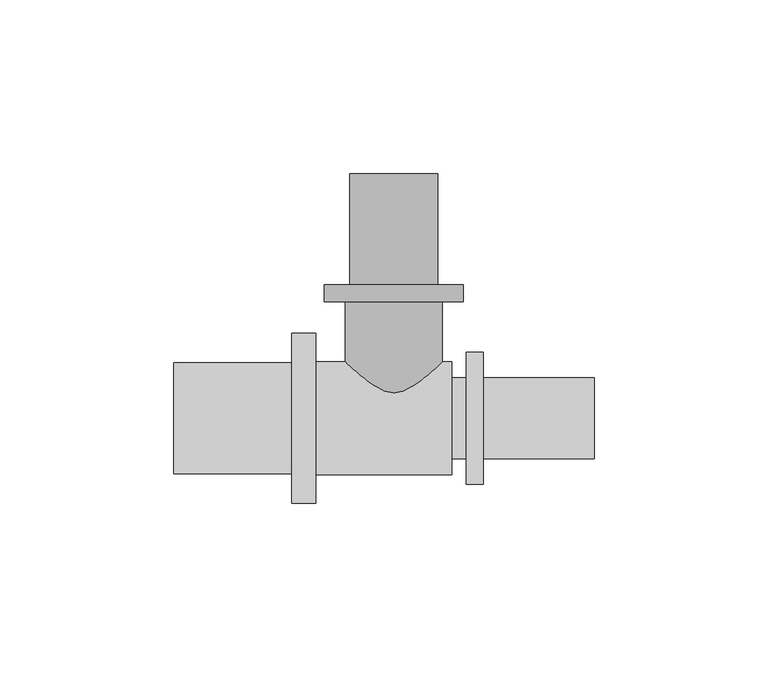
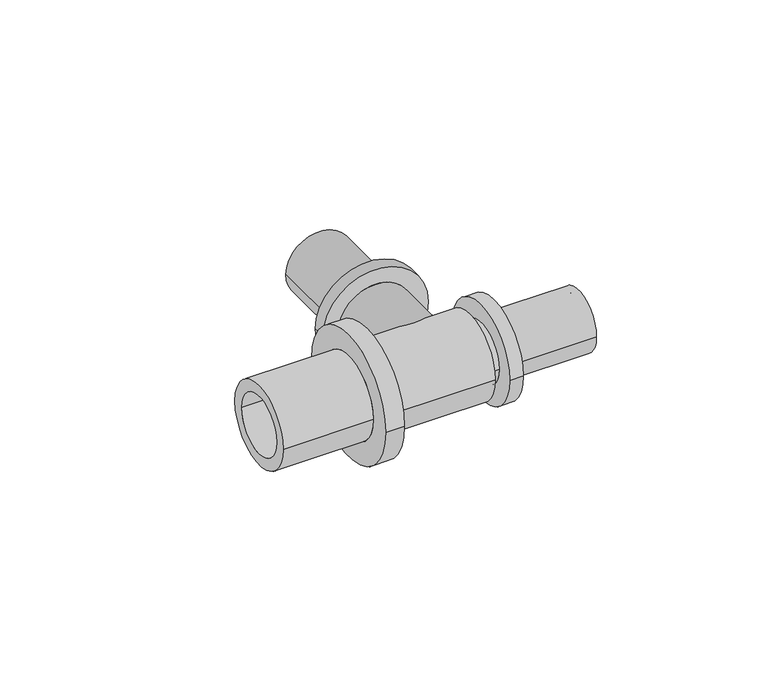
"""IFC4 building model written with IfcOpenShell, lengths in millimetres: pipe fitting geometry, RAUTITAN_T-piece_LX : RTI LX T DN."""

from ifc_helpers import new_model, si_unit, frame, origin, place, context, project, spatial, polyline, circle_curve, source, transform, mapped, element, save
from ifc_brep_helpers import plane_surface, cylinder_surface, revolved_surface, advanced_brep


def pipe_fitting_bdd22d68(model_context):
    return source(origin(), model_context, "Body", "AdvancedBrep", [
        advanced_brep(
        [(-14.0, 33.5, 0.0), (14.0, 33.5, 0.0), (14.0, 0.0, 0.0), (-14.0, 0.0, 0.0), (-20.0, 38.5, 0.0), (20.0, 38.5, 0.0), (20.0, 33.5, 0.0), (-20.0, 33.5, 0.0), (-12.7, 70.5, 0.0), (12.7, 70.5, 0.0), (12.7, 38.5, 0.0), (-12.7, 38.5, 0.0), (-10.0, 0.0, 0.0), (10.0, 0.0, 0.0), (10.0, 70.5, 0.0), (-10.0, 70.5, 0.0)],
        [
            (0, 1, circle_curve(frame((0.0, 33.5, 0.0), z_axis=(0.0, -1.0, 0.0), x_axis=(1.0, 0.0, 0.0)), 14.0)),
            (1, 2),
            (2, 3, circle_curve(frame((0.0, 0.0, 0.0), z_axis=(0.0, 1.0, 0.0), x_axis=(1.0, 0.0, 0.0)), 14.0)),
            (3, 0),
            (4, 5, circle_curve(frame((0.0, 38.5, 0.0), z_axis=(0.0, -1.0, 0.0), x_axis=(1.0, 0.0, 0.0)), 20.0)),
            (5, 6),
            (6, 7, circle_curve(frame((0.0, 33.5, 0.0), z_axis=(0.0, 1.0, 0.0), x_axis=(1.0, 0.0, 0.0)), 20.0)),
            (7, 4),
            (8, 9, circle_curve(frame((0.0, 70.5, 0.0), z_axis=(0.0, -1.0, 0.0), x_axis=(1.0, 0.0, 0.0)), 12.7)),
            (9, 10),
            (10, 11, circle_curve(frame((0.0, 38.5, 0.0), z_axis=(0.0, 1.0, 0.0), x_axis=(1.0, 0.0, 0.0)), 12.7)),
            (11, 8),
            (12, 13, circle_curve(frame((0.0, 0.0, 0.0), z_axis=(0.0, -1.0, 0.0), x_axis=(1.0, 0.0, 0.0)), 10.0)),
            (13, 14),
            (14, 15, circle_curve(frame((0.0, 70.5, 0.0), z_axis=(0.0, 1.0, 0.0), x_axis=(1.0, 0.0, 0.0)), 10.0)),
            (15, 12),
            (1, 0, circle_curve(frame((0.0, 33.5, 0.0), z_axis=(0.0, -1.0, 0.0), x_axis=(-1.0, 0.0, 0.0)), 14.0)),
            (3, 2, circle_curve(frame((0.0, 0.0, 0.0), z_axis=(0.0, 1.0, 0.0), x_axis=(-1.0, 0.0, 0.0)), 14.0)),
            (6, 7, circle_curve(frame((0.0, 33.5, 0.0), z_axis=(0.0, -1.0, 0.0), x_axis=(-1.0, 0.0, 0.0)), 20.0)),
            (5, 4, circle_curve(frame((0.0, 38.5, 0.0), z_axis=(0.0, -1.0, 0.0), x_axis=(-1.0, 0.0, 0.0)), 20.0)),
            (10, 11, circle_curve(frame((0.0, 38.5, 0.0), z_axis=(0.0, -1.0, 0.0), x_axis=(-1.0, 0.0, 0.0)), 12.7)),
            (9, 8, circle_curve(frame((0.0, 70.5, 0.0), z_axis=(0.0, -1.0, 0.0), x_axis=(-1.0, 0.0, 0.0)), 12.7)),
            (14, 15, circle_curve(frame((0.0, 70.5, 0.0), z_axis=(0.0, -1.0, 0.0), x_axis=(-1.0, 0.0, 0.0)), 10.0)),
            (13, 12, circle_curve(frame((0.0, 0.0, 0.0), z_axis=(0.0, -1.0, 0.0), x_axis=(-1.0, 0.0, 0.0)), 10.0)),
        ],
        [
            cylinder_surface(frame((0.0, 0.0, 0.0), z_axis=(0.0, 1.0, 0.0), x_axis=(1.0, 0.0, 0.0)), 14.0),
            cylinder_surface(frame((0.0, 0.0, 0.0), z_axis=(0.0, 1.0, 0.0), x_axis=(1.0, 0.0, 0.0)), 20.0),
            cylinder_surface(frame((0.0, 0.0, 0.0), z_axis=(0.0, 1.0, 0.0), x_axis=(1.0, 0.0, 0.0)), 12.7),
            revolved_surface(polyline([(10.0, 70.5, 0.0), (10.0, 0.0, 0.0)]), (0.0, 0.0, 0.0), (0.0, 1.0, 0.0)),
            cylinder_surface(frame((0.0, 0.0, 0.0), z_axis=(0.0, 1.0, 0.0), x_axis=(-1.0, 0.0, 0.0)), 14.0),
            plane_surface(frame((0.0, 33.5, 0.0), z_axis=(0.0, -1.0, 0.0), x_axis=(-1.0, 0.0, 0.0))),
            cylinder_surface(frame((0.0, 0.0, 0.0), z_axis=(0.0, 1.0, 0.0), x_axis=(-1.0, 0.0, 0.0)), 20.0),
            plane_surface(frame((0.0, 38.5, 0.0), z_axis=(0.0, 1.0, 0.0), x_axis=(-1.0, 0.0, 0.0))),
            cylinder_surface(frame((0.0, 0.0, 0.0), z_axis=(0.0, 1.0, 0.0), x_axis=(-1.0, 0.0, 0.0)), 12.7),
            plane_surface(frame((0.0, 70.5, 0.0), z_axis=(0.0, 1.0, 0.0), x_axis=(-1.0, 0.0, 0.0))),
            revolved_surface(polyline([(-10.0, 70.5, 0.0), (-10.0, 0.0, 0.0)]), (0.0, 0.0, 0.0), (0.0, 1.0, 0.0)),
            plane_surface(frame((0.0, 0.0, 0.0), z_axis=(0.0, -1.0, 0.0), x_axis=(-1.0, 0.0, 0.0))),
        ],
        [
            (0, [[1, 2, 3, 4]]),
            (1, [[5, 6, 7, 8]]),
            (2, [[9, 10, 11, 12]]),
            (3, [[13, 14, 15, 16]]),
            (4, [[17, -4, 18, -2]]),
            (5, [[19, -7], [-17, -1]]),
            (6, [[20, -8, -19, -6]]),
            (7, [[-20, -5], [21, -11]]),
            (8, [[22, -12, -21, -10]]),
            (9, [[-22, -9], [23, -15]]),
            (10, [[24, -16, -23, -14]]),
            (11, [[-18, -3], [-24, -13]]),
        ],
    ),
        advanced_brep(
        [(-63.5, 11.5, 0.0), (-63.5, -11.5, 0.0), (14.0, -11.5, 0.0), (14.0, 11.5, 0.0), (16.7, 16.3, 0.0), (16.7, -16.3, 0.0), (-22.5, -16.3, 0.0), (-22.5, 16.3, 0.0), (-22.5, 24.5, 0.0), (-22.5, -24.5, 0.0), (-29.5, -24.5, 0.0), (-29.5, 24.5, 0.0), (-29.5, 16.0, 0.0), (-29.5, -16.0, 0.0), (-63.5, -16.0, 0.0), (-63.5, 16.0, 0.0), (14.0, 9.0, 0.0), (14.0, -9.0, 0.0), (57.8, -9.0, 0.0), (57.8, 9.0, 0.0), (57.8, 11.7, 0.0), (57.8, -11.7, 0.0), (25.8, -11.7, 0.0), (25.8, 11.7, 0.0), (25.8, 19.0, 0.0), (25.8, -19.0, 0.0), (20.8, -19.0, 0.0), (20.8, 19.0, 0.0), (20.8, 11.7, 0.0), (20.8, -11.7, 0.0), (16.7, -11.7, 0.0), (16.7, 11.7, 0.0)],
        [
            (0, 1, circle_curve(frame((-63.5, 0.0, 0.0), z_axis=(-1.0, 0.0, 0.0), x_axis=(0.0, -1.0, 0.0)), 11.5)),
            (1, 2),
            (2, 3, circle_curve(frame((14.0, 0.0, 0.0), z_axis=(1.0, 0.0, 0.0), x_axis=(0.0, -1.0, 0.0)), 11.5)),
            (3, 0),
            (4, 5, circle_curve(frame((16.7, 0.0, 0.0), z_axis=(-1.0, 0.0, 0.0), x_axis=(0.0, -1.0, 0.0)), 16.3)),
            (5, 6),
            (6, 7, circle_curve(frame((-22.5, 0.0, 0.0), z_axis=(1.0, 0.0, 0.0), x_axis=(0.0, -1.0, 0.0)), 16.3)),
            (7, 4),
            (1, 0, circle_curve(frame((-63.5, 0.0, 0.0), z_axis=(-1.0, 0.0, 0.0), x_axis=(0.0, 1.0, 0.0)), 11.5)),
            (3, 2, circle_curve(frame((14.0, 0.0, 0.0), z_axis=(1.0, 0.0, 0.0), x_axis=(0.0, 1.0, 0.0)), 11.5)),
            (5, 4, circle_curve(frame((16.7, 0.0, 0.0), z_axis=(-1.0, 0.0, 0.0), x_axis=(0.0, 1.0, 0.0)), 16.3)),
            (7, 6, circle_curve(frame((-22.5, 0.0, 0.0), z_axis=(1.0, 0.0, 0.0), x_axis=(0.0, 1.0, 0.0)), 16.3)),
            (8, 9, circle_curve(frame((-22.5, 0.0, 0.0), z_axis=(-1.0, 0.0, 0.0), x_axis=(0.0, -1.0, 0.0)), 24.5)),
            (9, 10),
            (10, 11, circle_curve(frame((-29.5, 0.0, 0.0), z_axis=(1.0, 0.0, 0.0), x_axis=(0.0, -1.0, 0.0)), 24.5)),
            (11, 8),
            (12, 13, circle_curve(frame((-29.5, 0.0, 0.0), z_axis=(-1.0, 0.0, 0.0), x_axis=(0.0, -1.0, 0.0)), 16.0)),
            (13, 14),
            (14, 15, circle_curve(frame((-63.5, 0.0, 0.0), z_axis=(1.0, 0.0, 0.0), x_axis=(0.0, -1.0, 0.0)), 16.0)),
            (15, 12),
            (8, 9, circle_curve(frame((-22.5, 0.0, 0.0), z_axis=(1.0, 0.0, 0.0), x_axis=(0.0, 1.0, 0.0)), 24.5)),
            (11, 10, circle_curve(frame((-29.5, 0.0, 0.0), z_axis=(1.0, 0.0, 0.0), x_axis=(0.0, 1.0, 0.0)), 24.5)),
            (12, 13, circle_curve(frame((-29.5, 0.0, 0.0), z_axis=(1.0, 0.0, 0.0), x_axis=(0.0, 1.0, 0.0)), 16.0)),
            (15, 14, circle_curve(frame((-63.5, 0.0, 0.0), z_axis=(1.0, 0.0, 0.0), x_axis=(0.0, 1.0, 0.0)), 16.0)),
            (16, 17, circle_curve(frame((14.0, 0.0, 0.0), z_axis=(-1.0, 0.0, 0.0), x_axis=(0.0, -1.0, 0.0)), 9.0)),
            (17, 18),
            (18, 19, circle_curve(frame((57.8, 0.0, 0.0), z_axis=(1.0, 0.0, 0.0), x_axis=(0.0, -1.0, 0.0)), 9.0)),
            (19, 16),
            (20, 21, circle_curve(frame((57.8, 0.0, 0.0), z_axis=(-1.0, 0.0, 0.0), x_axis=(0.0, -1.0, 0.0)), 11.7)),
            (21, 22),
            (22, 23, circle_curve(frame((25.8, 0.0, 0.0), z_axis=(1.0, 0.0, 0.0), x_axis=(0.0, -1.0, 0.0)), 11.7)),
            (23, 20),
            (24, 25, circle_curve(frame((25.8, 0.0, 0.0), z_axis=(-1.0, 0.0, 0.0), x_axis=(0.0, -1.0, 0.0)), 19.0)),
            (25, 26),
            (26, 27, circle_curve(frame((20.8, 0.0, 0.0), z_axis=(1.0, 0.0, 0.0), x_axis=(0.0, -1.0, 0.0)), 19.0)),
            (27, 24),
            (28, 29, circle_curve(frame((20.8, 0.0, 0.0), z_axis=(-1.0, 0.0, 0.0), x_axis=(0.0, -1.0, 0.0)), 11.7)),
            (29, 30),
            (30, 31, circle_curve(frame((16.7, 0.0, 0.0), z_axis=(1.0, 0.0, 0.0), x_axis=(0.0, -1.0, 0.0)), 11.7)),
            (31, 28),
            (16, 17, circle_curve(frame((14.0, 0.0, 0.0), z_axis=(1.0, 0.0, 0.0), x_axis=(0.0, 1.0, 0.0)), 9.0)),
            (19, 18, circle_curve(frame((57.8, 0.0, 0.0), z_axis=(1.0, 0.0, 0.0), x_axis=(0.0, 1.0, 0.0)), 9.0)),
            (20, 21, circle_curve(frame((57.8, 0.0, 0.0), z_axis=(1.0, 0.0, 0.0), x_axis=(0.0, 1.0, 0.0)), 11.7)),
            (23, 22, circle_curve(frame((25.8, 0.0, 0.0), z_axis=(1.0, 0.0, 0.0), x_axis=(0.0, 1.0, 0.0)), 11.7)),
            (24, 25, circle_curve(frame((25.8, 0.0, 0.0), z_axis=(1.0, 0.0, 0.0), x_axis=(0.0, 1.0, 0.0)), 19.0)),
            (27, 26, circle_curve(frame((20.8, 0.0, 0.0), z_axis=(1.0, 0.0, 0.0), x_axis=(0.0, 1.0, 0.0)), 19.0)),
            (28, 29, circle_curve(frame((20.8, 0.0, 0.0), z_axis=(1.0, 0.0, 0.0), x_axis=(0.0, 1.0, 0.0)), 11.7)),
            (31, 30, circle_curve(frame((16.7, 0.0, 0.0), z_axis=(1.0, 0.0, 0.0), x_axis=(0.0, 1.0, 0.0)), 11.7)),
        ],
        [
            revolved_surface(polyline([(14.0, -11.5, 0.0), (-63.5, -11.5, 0.0)]), (0.0, 0.0, 0.0), (1.0, 0.0, 0.0)),
            cylinder_surface(frame((0.0, 0.0, 0.0), z_axis=(1.0, 0.0, 0.0), x_axis=(0.0, -1.0, 0.0)), 16.3),
            revolved_surface(polyline([(14.0, 11.5, 0.0), (-63.5, 11.5, 0.0)]), (0.0, 0.0, 0.0), (1.0, 0.0, 0.0)),
            cylinder_surface(frame((0.0, 0.0, 0.0), z_axis=(1.0, 0.0, 0.0), x_axis=(0.0, 1.0, 0.0)), 16.3),
            cylinder_surface(frame((0.0, 0.0, 0.0), z_axis=(1.0, 0.0, 0.0), x_axis=(0.0, -1.0, 0.0)), 24.5),
            cylinder_surface(frame((0.0, 0.0, 0.0), z_axis=(1.0, 0.0, 0.0), x_axis=(0.0, -1.0, 0.0)), 16.0),
            plane_surface(frame((-22.5, 0.0, 0.0), z_axis=(1.0, 0.0, 0.0), x_axis=(0.0, 1.0, 0.0))),
            cylinder_surface(frame((0.0, 0.0, 0.0), z_axis=(1.0, 0.0, 0.0), x_axis=(0.0, 1.0, 0.0)), 24.5),
            plane_surface(frame((-29.5, 0.0, 0.0), z_axis=(-1.0, 0.0, 0.0), x_axis=(0.0, 1.0, 0.0))),
            cylinder_surface(frame((0.0, 0.0, 0.0), z_axis=(1.0, 0.0, 0.0), x_axis=(0.0, 1.0, 0.0)), 16.0),
            plane_surface(frame((-63.5, 0.0, 0.0), z_axis=(-1.0, 0.0, 0.0), x_axis=(0.0, 1.0, 0.0))),
            revolved_surface(polyline([(57.8, -9.0, 0.0), (14.0, -9.0, 0.0)]), (0.0, 0.0, 0.0), (1.0, 0.0, 0.0)),
            cylinder_surface(frame((0.0, 0.0, 0.0), z_axis=(1.0, 0.0, 0.0), x_axis=(0.0, -1.0, 0.0)), 11.7),
            cylinder_surface(frame((0.0, 0.0, 0.0), z_axis=(1.0, 0.0, 0.0), x_axis=(0.0, -1.0, 0.0)), 19.0),
            plane_surface(frame((14.0, 0.0, 0.0), z_axis=(-1.0, 0.0, 0.0), x_axis=(0.0, 1.0, 0.0))),
            revolved_surface(polyline([(57.8, 9.0, 0.0), (14.0, 9.0, 0.0)]), (0.0, 0.0, 0.0), (1.0, 0.0, 0.0)),
            plane_surface(frame((57.8, 0.0, 0.0), z_axis=(1.0, 0.0, 0.0), x_axis=(0.0, 1.0, 0.0))),
            cylinder_surface(frame((0.0, 0.0, 0.0), z_axis=(1.0, 0.0, 0.0), x_axis=(0.0, 1.0, 0.0)), 11.7),
            plane_surface(frame((25.8, 0.0, 0.0), z_axis=(1.0, 0.0, 0.0), x_axis=(0.0, 1.0, 0.0))),
            cylinder_surface(frame((0.0, 0.0, 0.0), z_axis=(1.0, 0.0, 0.0), x_axis=(0.0, 1.0, 0.0)), 19.0),
            plane_surface(frame((20.8, 0.0, 0.0), z_axis=(-1.0, 0.0, 0.0), x_axis=(0.0, 1.0, 0.0))),
            plane_surface(frame((16.7, 0.0, 0.0), z_axis=(1.0, 0.0, 0.0), x_axis=(0.0, 1.0, 0.0))),
        ],
        [
            (0, [[1, 2, 3, 4]]),
            (1, [[5, 6, 7, 8]]),
            (2, [[9, -4, 10, -2]]),
            (3, [[11, -8, 12, -6]]),
            (4, [[13, 14, 15, 16]]),
            (5, [[17, 18, 19, 20]]),
            (6, [[21, -13], [-12, -7]]),
            (7, [[-21, -16, 22, -14]]),
            (8, [[-22, -15], [23, -17]]),
            (9, [[-23, -20, 24, -18]]),
            (10, [[-24, -19], [-9, -1]]),
            (11, [[25, 26, 27, 28]]),
            (12, [[29, 30, 31, 32]]),
            (13, [[33, 34, 35, 36]]),
            (12, [[37, 38, 39, 40]]),
            (14, [[-10, -3], [41, -25]]),
            (15, [[-41, -28, 42, -26]]),
            (16, [[43, -29], [-42, -27]]),
            (17, [[-43, -32, 44, -30]]),
            (18, [[45, -33], [-44, -31]]),
            (19, [[-45, -36, 46, -34]]),
            (20, [[-46, -35], [47, -37]]),
            (17, [[-47, -40, 48, -38]]),
            (21, [[-11, -5], [-48, -39]]),
        ],
    ),
    ])


if __name__ == "__main__":
    model = new_model("IFC4")
    model_context = context("Model", 3, world=origin())
    ifc_project = project(units=[si_unit("LENGTHUNIT", "METRE", prefix="MILLI")], contexts=[model_context])
    site = spatial("IfcSite", under=ifc_project)
    building = spatial("IfcBuilding", under=site)
    placement = place(None, origin())
    pipe_fitting_shape = pipe_fitting_bdd22d68(model_context)
    element("IfcPipeFitting", 1, ObjectType="RAUTITAN_T-piece_LX : RTI LX T DN", at=placement, inside=building, context=model_context, shape_type="MappedRepresentation", body=[
        mapped(pipe_fitting_shape, transform((0.0, 0.0, 0.0), x_axis=(1.0, 0.0, 0.0), y_axis=(0.0, 1.0, 0.0), z_axis=(0.0, 0.0, 1.0))),
    ])
    save(model, "model.ifc")
